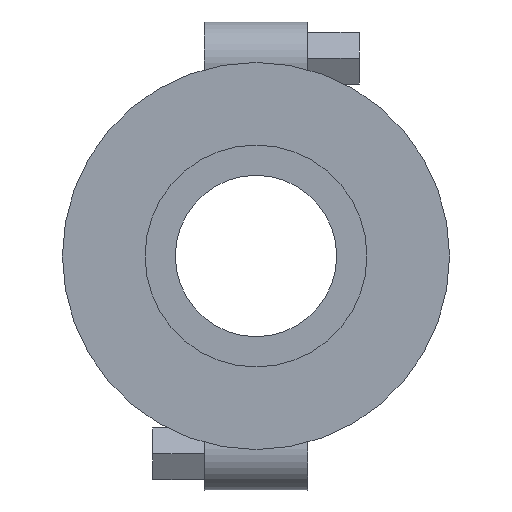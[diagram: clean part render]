
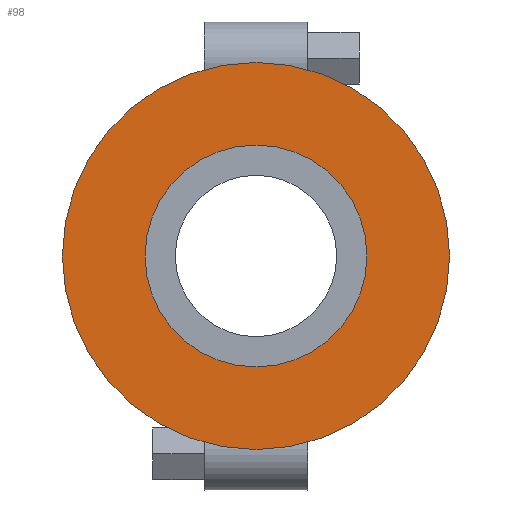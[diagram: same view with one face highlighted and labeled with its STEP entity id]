
A CAD part, left-side view. The second image highlights one B-rep face of the part: STEP entity #98.
In plain terms, the highlighted planar face has unit normal (-1, 0, 0).
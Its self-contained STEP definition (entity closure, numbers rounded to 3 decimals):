
#98 = ADVANCED_FACE( '', ( #192, #193 ), #194, .T. );
#192 = FACE_OUTER_BOUND( '', #285, .T. );
#193 = FACE_BOUND( '', #286, .T. );
#194 = PLANE( '', #287 );
#285 = EDGE_LOOP( '', ( #422 ) );
#286 = EDGE_LOOP( '', ( #423 ) );
#287 = AXIS2_PLACEMENT_3D( '', #424, #425, #426 );
#422 = ORIENTED_EDGE( '', *, *, #518, .T. );
#423 = ORIENTED_EDGE( '', *, *, #499, .F. );
#424 = CARTESIAN_POINT( '', ( -28., 0., 8.6 ) );
#425 = DIRECTION( '', ( -1., 0., 0. ) );
#426 = DIRECTION( '', ( 0., 0., 1. ) );
#499 = EDGE_CURVE( '', #593, #593, #594, .T. );
#518 = EDGE_CURVE( '', #621, #621, #622, .T. );
#593 = VERTEX_POINT( '', #817 );
#594 = CIRCLE( '', #818, 8.6 );
#621 = VERTEX_POINT( '', #845 );
#622 = CIRCLE( '', #846, 15. );
#817 = CARTESIAN_POINT( '', ( -28., 0., 8.6 ) );
#818 = AXIS2_PLACEMENT_3D( '', #921, #922, #923 );
#845 = CARTESIAN_POINT( '', ( -28., 0., 15. ) );
#846 = AXIS2_PLACEMENT_3D( '', #948, #949, #950 );
#921 = CARTESIAN_POINT( '', ( -28., 0., 0. ) );
#922 = DIRECTION( '', ( -1., 0., 0. ) );
#923 = DIRECTION( '', ( 0., 0., 1. ) );
#948 = CARTESIAN_POINT( '', ( -28., 0., 0. ) );
#949 = DIRECTION( '', ( -1., 0., 0. ) );
#950 = DIRECTION( '', ( 0., 0., 1. ) );
